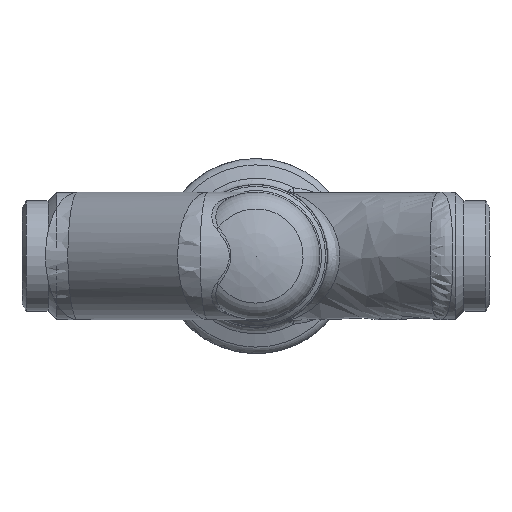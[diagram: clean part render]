
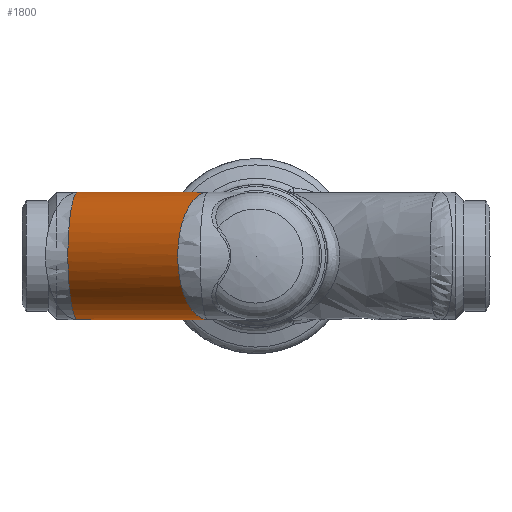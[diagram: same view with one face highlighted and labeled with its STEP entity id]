
A CAD part, front view. The second image highlights one B-rep face of the part: STEP entity #1800.
In plain terms, the highlighted cylindrical face has radius 24.5 mm (diameter 49 mm), a full revolution.
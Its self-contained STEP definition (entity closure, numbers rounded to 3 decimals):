
#862=CARTESIAN_POINT('',(-68.5,-55.,24.5));
#863=VERTEX_POINT('',#862);
#871=CARTESIAN_POINT('',(-68.5,-55.,-24.5));
#872=VERTEX_POINT('',#871);
#1003=CARTESIAN_POINT('',(-20.68,-67.307,17.301));
#1004=VERTEX_POINT('',#1003);
#1062=CARTESIAN_POINT('',(-20.68,-67.307,-17.301));
#1063=VERTEX_POINT('',#1062);
#1274=CARTESIAN_POINT('',(-16.358,-74.756,20.295));
#1275=VERTEX_POINT('',#1274);
#1276=CARTESIAN_POINT('',(-20.68,-67.307,17.301));
#1277=CARTESIAN_POINT('',(-19.275,-69.729,18.482));
#1278=CARTESIAN_POINT('',(-17.831,-72.218,19.46));
#1279=CARTESIAN_POINT('',(-16.358,-74.756,20.295));
#1280=B_SPLINE_CURVE_WITH_KNOTS('',3,(#1276,#1277,#1278,#1279),.UNSPECIFIED.,.F.,.U.,(4,4),(22.672,23.613),.UNSPECIFIED.);
#1281=EDGE_CURVE('',#1004,#1275,#1280,.T.);
#1338=CARTESIAN_POINT('',(-25.096,-63.769,16.926));
#1339=VERTEX_POINT('',#1338);
#1351=CARTESIAN_POINT('',(-25.096,-63.769,16.926));
#1352=CARTESIAN_POINT('',(-23.644,-64.967,17.082));
#1353=CARTESIAN_POINT('',(-22.177,-66.147,17.209));
#1354=CARTESIAN_POINT('',(-20.68,-67.307,17.301));
#1355=B_SPLINE_CURVE_WITH_KNOTS('',3,(#1351,#1352,#1353,#1354),.UNSPECIFIED.,.F.,.U.,(4,4),(-15.736,-15.169),.UNSPECIFIED.);
#1356=EDGE_CURVE('',#1339,#1004,#1355,.T.);
#1585=CARTESIAN_POINT('',(-25.096,-63.769,-16.926));
#1586=VERTEX_POINT('',#1585);
#1647=CARTESIAN_POINT('',(-20.68,-67.307,-17.301));
#1648=CARTESIAN_POINT('',(-22.177,-66.147,-17.209));
#1649=CARTESIAN_POINT('',(-23.644,-64.967,-17.082));
#1650=CARTESIAN_POINT('',(-25.096,-63.769,-16.926));
#1651=B_SPLINE_CURVE_WITH_KNOTS('',3,(#1647,#1648,#1649,#1650),.UNSPECIFIED.,.F.,.U.,(4,4),(-27.22,-26.653),.UNSPECIFIED.);
#1652=EDGE_CURVE('',#1063,#1586,#1651,.T.);
#1719=CARTESIAN_POINT('',(-68.5,-55.,0.0));
#1720=DIRECTION('',(-0.99,0.14,0.));
#1721=DIRECTION('',(-0.14,-0.99,0.0));
#1722=AXIS2_PLACEMENT_3D('',#1719,#1720,#1721);
#1723=ELLIPSE('',#1722,27.484,24.5);
#1724=EDGE_CURVE('',#872,#863,#1723,.T.);
#1732=CARTESIAN_POINT('',(-68.5,-55.,0.0));
#1733=DIRECTION('',(0.819,-0.574,0.0));
#1734=DIRECTION('',(-0.574,-0.819,0.0));
#1735=AXIS2_PLACEMENT_3D('',#1732,#1733,#1734);
#1736=CYLINDRICAL_SURFACE('',#1735,24.5);
#1737=CARTESIAN_POINT('',(-18.515,-90.,-24.5));
#1738=VERTEX_POINT('',#1737);
#1739=CARTESIAN_POINT('',(-16.358,-74.756,-20.295));
#1740=VERTEX_POINT('',#1739);
#1741=CARTESIAN_POINT('',(-18.515,-90.,0.0));
#1742=DIRECTION('',(0.99,-0.14,0.));
#1743=DIRECTION('',(0.14,0.99,0.0));
#1744=AXIS2_PLACEMENT_3D('',#1741,#1742,#1743);
#1745=ELLIPSE('',#1744,27.484,24.5);
#1746=EDGE_CURVE('',#1738,#1740,#1745,.T.);
#1747=ORIENTED_EDGE('',*,*,#1746,.F.);
#1748=CARTESIAN_POINT('',(-18.515,-90.,24.5));
#1749=VERTEX_POINT('',#1748);
#1750=CARTESIAN_POINT('',(-18.515,-90.,0.0));
#1751=DIRECTION('',(0.883,-0.47,0.));
#1752=DIRECTION('',(-0.47,-0.883,0.0));
#1753=AXIS2_PLACEMENT_3D('',#1750,#1751,#1752);
#1754=ELLIPSE('',#1753,24.682,24.5);
#1755=EDGE_CURVE('',#1749,#1738,#1754,.T.);
#1756=ORIENTED_EDGE('',*,*,#1755,.F.);
#1757=CARTESIAN_POINT('',(-18.515,-90.,0.0));
#1758=DIRECTION('',(0.99,-0.14,0.));
#1759=DIRECTION('',(0.14,0.99,0.0));
#1760=AXIS2_PLACEMENT_3D('',#1757,#1758,#1759);
#1761=ELLIPSE('',#1760,27.484,24.5);
#1762=EDGE_CURVE('',#1275,#1749,#1761,.T.);
#1763=ORIENTED_EDGE('',*,*,#1762,.F.);
#1764=ORIENTED_EDGE('',*,*,#1281,.F.);
#1765=ORIENTED_EDGE('',*,*,#1356,.F.);
#1766=CARTESIAN_POINT('',(-25.096,-63.769,-16.926));
#1767=CARTESIAN_POINT('',(-26.073,-61.899,-15.91));
#1768=CARTESIAN_POINT('',(-27.99,-58.283,-13.608));
#1769=CARTESIAN_POINT('',(-30.514,-53.612,-9.202));
#1770=CARTESIAN_POINT('',(-31.976,-50.933,-4.348));
#1771=CARTESIAN_POINT('',(-32.295,-50.35,0.02));
#1772=CARTESIAN_POINT('',(-31.966,-50.952,4.393));
#1773=CARTESIAN_POINT('',(-30.509,-53.62,9.213));
#1774=CARTESIAN_POINT('',(-27.974,-58.314,13.631));
#1775=CARTESIAN_POINT('',(-26.071,-61.902,15.912));
#1776=CARTESIAN_POINT('',(-25.096,-63.769,16.926));
#1777=B_SPLINE_CURVE_WITH_KNOTS('',3,(#1766,#1767,#1768,#1769,#1770,#1771,#1772,#1773,#1774,#1775,#1776),.UNSPECIFIED.,.F.,.U.,(4,1,1,1,1,1,1,1,4),(18.338,19.069,19.8,20.531,20.896,21.262,21.993,22.724,23.455),.UNSPECIFIED.);
#1778=EDGE_CURVE('',#1586,#1339,#1777,.T.);
#1779=ORIENTED_EDGE('',*,*,#1778,.F.);
#1780=ORIENTED_EDGE('',*,*,#1652,.F.);
#1781=CARTESIAN_POINT('',(-16.358,-74.756,-20.295));
#1782=CARTESIAN_POINT('',(-17.829,-72.221,-19.461));
#1783=CARTESIAN_POINT('',(-19.273,-69.731,-18.483));
#1784=CARTESIAN_POINT('',(-20.68,-67.307,-17.301));
#1785=B_SPLINE_CURVE_WITH_KNOTS('',3,(#1781,#1782,#1783,#1784),.UNSPECIFIED.,.F.,.U.,(4,4),(22.555,23.497),.UNSPECIFIED.);
#1786=EDGE_CURVE('',#1740,#1063,#1785,.T.);
#1787=ORIENTED_EDGE('',*,*,#1786,.F.);
#1788=EDGE_LOOP('',(#1747,#1756,#1763,#1764,#1765,#1779,#1780,#1787));
#1789=FACE_OUTER_BOUND('',#1788,.T.);
#1790=ORIENTED_EDGE('',*,*,#1724,.F.);
#1791=CARTESIAN_POINT('',(-68.5,-55.,0.0));
#1792=DIRECTION('',(-0.883,0.47,0.0));
#1793=DIRECTION('',(0.47,0.883,0.0));
#1794=AXIS2_PLACEMENT_3D('',#1791,#1792,#1793);
#1795=ELLIPSE('',#1794,24.682,24.5);
#1796=EDGE_CURVE('',#863,#872,#1795,.T.);
#1797=ORIENTED_EDGE('',*,*,#1796,.F.);
#1798=EDGE_LOOP('',(#1790,#1797));
#1799=FACE_BOUND('',#1798,.T.);
#1800=ADVANCED_FACE('',(#1789,#1799),#1736,.T.);
